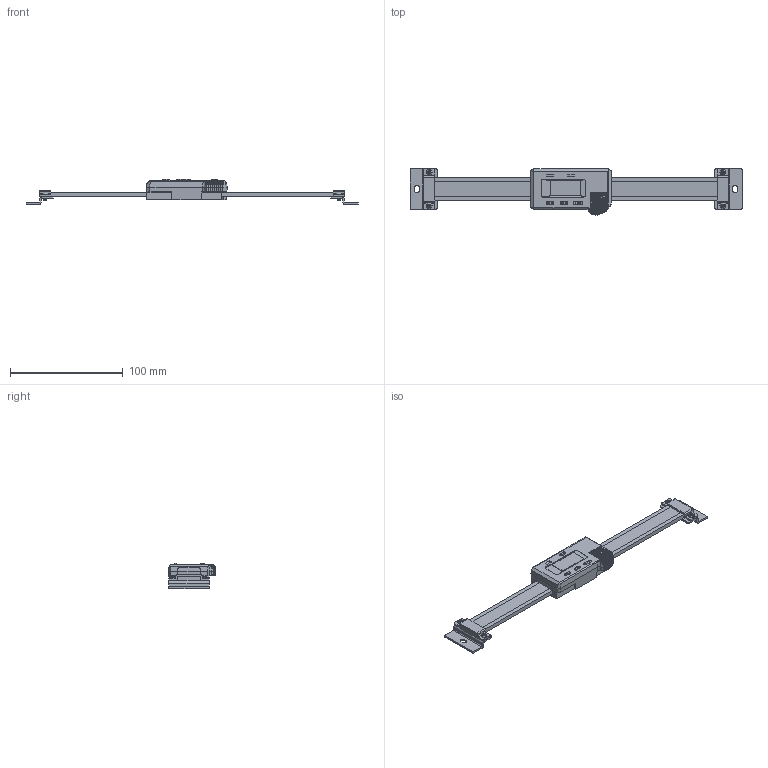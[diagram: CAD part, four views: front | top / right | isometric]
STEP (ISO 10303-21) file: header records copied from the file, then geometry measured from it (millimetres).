
FILE_DESCRIPTION(('Creo Elements/Direct Modeling STEP Export'),'2;1');
FILE_NAME('SD-15E.stp','2020-01-09T11:40:26',(''),(''),'Creo Elements/Direct Modeling STEP processor for AP214 (Solid Model)','Creo Elements/Direct Modeling 18.1I 13-Aug-2016 (C) Parametric Technology GmbH','');
FILE_SCHEMA(('AUTOMOTIVE_DESIGN { 1 0 10303 214 1 1 1 1 }'));
Length unit declared in the file: millimetre
Products named in the file (5): SLIDER; BEAM; HOLDER.1; HOLDER.2; 572-461_SD-15E
Assembly tree (4 placements, depth 2):
  572-461_SD-15E
    HOLDER.2
    HOLDER.1
    BEAM
    SLIDER
Bounding box: 294 x 41.36 x 22.62 mm (x, y, z)
Volume: 45731.3 mm3; surface area: 34832.7 mm2
Topology: 4 solids, 4 shells, 834 faces, 2178 edges, 1378 vertices
Faces by surface type: plane 439, cylinder 176, bspline 120, extrusion 48, cone 37, torus 14
Entity records: 42067 total; most frequent: CARTESIAN_POINT 21635, ORIENTED_EDGE 4358, DIRECTION 3242, EDGE_CURVE 2178, VERTEX_POINT 1378, VECTOR 1294, LINE 1249, AXIS2_PLACEMENT_3D 974
